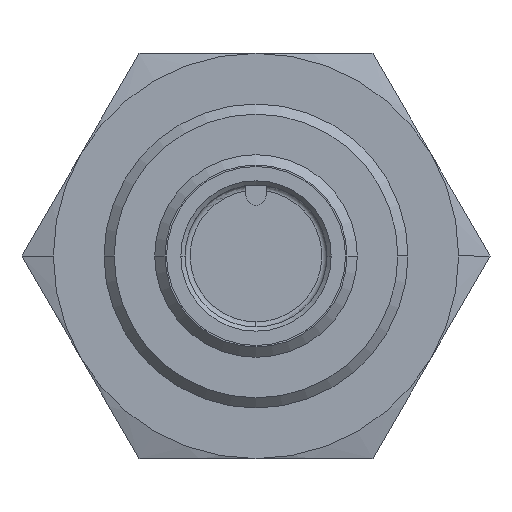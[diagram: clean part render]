
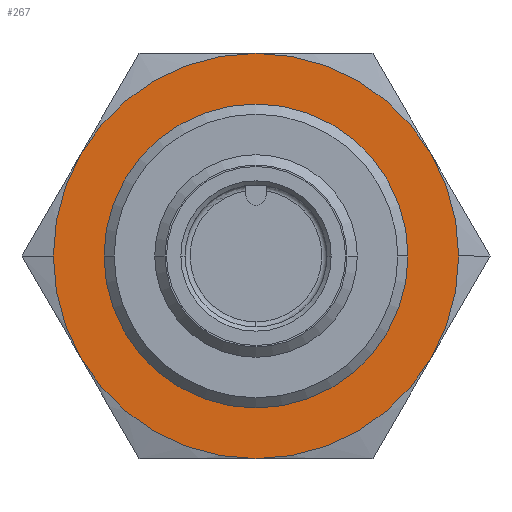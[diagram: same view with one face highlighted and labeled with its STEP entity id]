
A CAD part, left-side view. The second image highlights one B-rep face of the part: STEP entity #267.
In plain terms, the highlighted planar face has unit normal (-1, 0, 0).
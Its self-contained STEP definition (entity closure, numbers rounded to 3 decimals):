
#267 = ADVANCED_FACE( '', ( #501, #502 ), #503, .T. );
#501 = FACE_BOUND( '', #768, .T. );
#502 = FACE_OUTER_BOUND( '', #769, .T. );
#503 = PLANE( '', #770 );
#768 = EDGE_LOOP( '', ( #1541, #1542 ) );
#769 = EDGE_LOOP( '', ( #1543, #1544, #1545, #1546, #1547, #1548, #1549, #1550 ) );
#770 = AXIS2_PLACEMENT_3D( '', #1551, #1552, #1553 );
#1541 = ORIENTED_EDGE( '', *, *, #1986, .T. );
#1542 = ORIENTED_EDGE( '', *, *, #1924, .T. );
#1543 = ORIENTED_EDGE( '', *, *, #1982, .T. );
#1544 = ORIENTED_EDGE( '', *, *, #1935, .T. );
#1545 = ORIENTED_EDGE( '', *, *, #1977, .T. );
#1546 = ORIENTED_EDGE( '', *, *, #1978, .T. );
#1547 = ORIENTED_EDGE( '', *, *, #1937, .T. );
#1548 = ORIENTED_EDGE( '', *, *, #1979, .T. );
#1549 = ORIENTED_EDGE( '', *, *, #1980, .T. );
#1550 = ORIENTED_EDGE( '', *, *, #1981, .T. );
#1551 = CARTESIAN_POINT( '', ( 38.5, 6., 0. ) );
#1552 = DIRECTION( '', ( -1., 0., 0. ) );
#1553 = DIRECTION( '', ( 0., 1., 0. ) );
#1924 = EDGE_CURVE( '', #2300, #2297, #2301, .T. );
#1935 = EDGE_CURVE( '', #2316, #2318, #2320, .T. );
#1937 = EDGE_CURVE( '', #2324, #2321, #2325, .T. );
#1977 = EDGE_CURVE( '', #2318, #2344, #2387, .T. );
#1978 = EDGE_CURVE( '', #2344, #2324, #2388, .T. );
#1979 = EDGE_CURVE( '', #2321, #2375, #2389, .T. );
#1980 = EDGE_CURVE( '', #2375, #2367, #2390, .T. );
#1981 = EDGE_CURVE( '', #2367, #2354, #2391, .T. );
#1982 = EDGE_CURVE( '', #2354, #2316, #2392, .T. );
#1986 = EDGE_CURVE( '', #2297, #2300, #2396, .T. );
#2297 = VERTEX_POINT( '', #3221 );
#2300 = VERTEX_POINT( '', #3225 );
#2301 = CIRCLE( '', #3226, 9. );
#2316 = VERTEX_POINT( '', #3246 );
#2318 = VERTEX_POINT( '', #3249 );
#2320 = CIRCLE( '', #3260, 12. );
#2321 = VERTEX_POINT( '', #3261 );
#2324 = VERTEX_POINT( '', #3265 );
#2325 = CIRCLE( '', #3266, 12. );
#2344 = VERTEX_POINT( '', #3324 );
#2354 = VERTEX_POINT( '', #3372 );
#2367 = VERTEX_POINT( '', #3449 );
#2375 = VERTEX_POINT( '', #3494 );
#2387 = CIRCLE( '', #3543, 12. );
#2388 = CIRCLE( '', #3544, 12. );
#2389 = CIRCLE( '', #3545, 12. );
#2390 = CIRCLE( '', #3546, 12. );
#2391 = CIRCLE( '', #3547, 12. );
#2392 = CIRCLE( '', #3548, 12. );
#2396 = CIRCLE( '', #3552, 9. );
#3221 = CARTESIAN_POINT( '', ( 38.5, 9., 0. ) );
#3225 = CARTESIAN_POINT( '', ( 38.5, -9., 0. ) );
#3226 = AXIS2_PLACEMENT_3D( '', #4169, #4170, #4171 );
#3246 = CARTESIAN_POINT( '', ( 38.5, 12., 0. ) );
#3249 = CARTESIAN_POINT( '', ( 38.5, 10.392, -6. ) );
#3260 = AXIS2_PLACEMENT_3D( '', #4187, #4188, #4189 );
#3261 = CARTESIAN_POINT( '', ( 38.5, -12., 0. ) );
#3265 = CARTESIAN_POINT( '', ( 38.5, -10.392, -6. ) );
#3266 = AXIS2_PLACEMENT_3D( '', #4191, #4192, #4193 );
#3324 = CARTESIAN_POINT( '', ( 38.5, 0., -12. ) );
#3372 = CARTESIAN_POINT( '', ( 38.5, 10.392, 6. ) );
#3449 = CARTESIAN_POINT( '', ( 38.5, 0., 12. ) );
#3494 = CARTESIAN_POINT( '', ( 38.5, -10.392, 6. ) );
#3543 = AXIS2_PLACEMENT_3D( '', #4226, #4227, #4228 );
#3544 = AXIS2_PLACEMENT_3D( '', #4229, #4230, #4231 );
#3545 = AXIS2_PLACEMENT_3D( '', #4232, #4233, #4234 );
#3546 = AXIS2_PLACEMENT_3D( '', #4235, #4236, #4237 );
#3547 = AXIS2_PLACEMENT_3D( '', #4238, #4239, #4240 );
#3548 = AXIS2_PLACEMENT_3D( '', #4241, #4242, #4243 );
#3552 = AXIS2_PLACEMENT_3D( '', #4253, #4254, #4255 );
#4169 = CARTESIAN_POINT( '', ( 38.5, 0., 0. ) );
#4170 = DIRECTION( '', ( 1., 0., 0. ) );
#4171 = DIRECTION( '', ( 0., 1., 0. ) );
#4187 = CARTESIAN_POINT( '', ( 38.5, 0., 0. ) );
#4188 = DIRECTION( '', ( -1., 0., 0. ) );
#4189 = DIRECTION( '', ( 0., 1., 0. ) );
#4191 = CARTESIAN_POINT( '', ( 38.5, 0., 0. ) );
#4192 = DIRECTION( '', ( -1., 0., 0. ) );
#4193 = DIRECTION( '', ( 0., 1., 0. ) );
#4226 = CARTESIAN_POINT( '', ( 38.5, 0., 0. ) );
#4227 = DIRECTION( '', ( -1., 0., 0. ) );
#4228 = DIRECTION( '', ( 0., 1., 0. ) );
#4229 = CARTESIAN_POINT( '', ( 38.5, 0., 0. ) );
#4230 = DIRECTION( '', ( -1., 0., 0. ) );
#4231 = DIRECTION( '', ( 0., 1., 0. ) );
#4232 = CARTESIAN_POINT( '', ( 38.5, 0., 0. ) );
#4233 = DIRECTION( '', ( -1., 0., 0. ) );
#4234 = DIRECTION( '', ( 0., 1., 0. ) );
#4235 = CARTESIAN_POINT( '', ( 38.5, 0., 0. ) );
#4236 = DIRECTION( '', ( -1., 0., 0. ) );
#4237 = DIRECTION( '', ( 0., 1., 0. ) );
#4238 = CARTESIAN_POINT( '', ( 38.5, 0., 0. ) );
#4239 = DIRECTION( '', ( -1., 0., 0. ) );
#4240 = DIRECTION( '', ( 0., 1., 0. ) );
#4241 = CARTESIAN_POINT( '', ( 38.5, 0., 0. ) );
#4242 = DIRECTION( '', ( -1., 0., 0. ) );
#4243 = DIRECTION( '', ( 0., 1., 0. ) );
#4253 = CARTESIAN_POINT( '', ( 38.5, 0., 0. ) );
#4254 = DIRECTION( '', ( 1., 0., 0. ) );
#4255 = DIRECTION( '', ( 0., 1., 0. ) );
